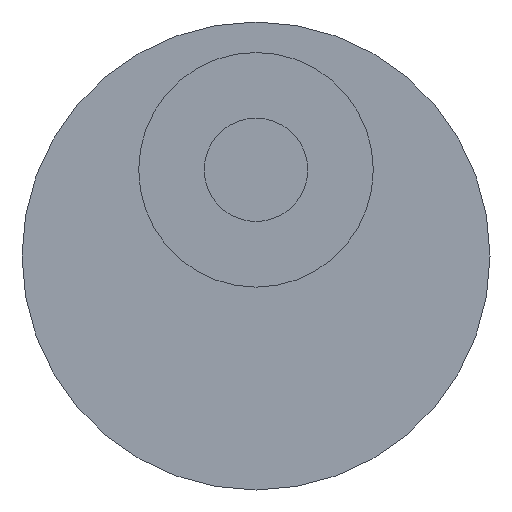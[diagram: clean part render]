
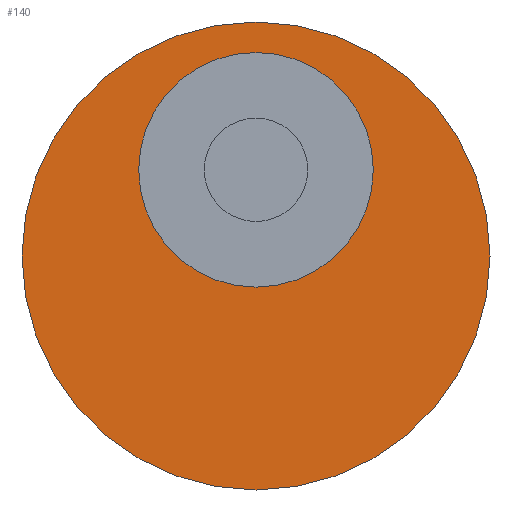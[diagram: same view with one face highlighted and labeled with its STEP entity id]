
A CAD part, front view. The second image highlights one B-rep face of the part: STEP entity #140.
In plain terms, the highlighted planar face has unit normal (0, -1, 0).
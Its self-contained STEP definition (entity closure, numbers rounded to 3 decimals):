
#31 = CYLINDRICAL_SURFACE('',#32,9.5);
#32 = AXIS2_PLACEMENT_3D('',#33,#34,#35);
#33 = CARTESIAN_POINT('',(136.876,317.565,-3.5));
#34 = DIRECTION('',(0.,1.,0.));
#35 = DIRECTION('',(0.,-0.,1.));
#56 = VERTEX_POINT('',#57);
#57 = CARTESIAN_POINT('',(136.876,317.565,6.));
#78 = EDGE_CURVE('',#56,#56,#79,.T.);
#79 = SURFACE_CURVE('',#80,(#85,#92),.PCURVE_S1.);
#80 = CIRCLE('',#81,9.5);
#81 = AXIS2_PLACEMENT_3D('',#82,#83,#84);
#82 = CARTESIAN_POINT('',(136.876,317.565,-3.5));
#83 = DIRECTION('',(0.,1.,0.));
#84 = DIRECTION('',(0.,-0.,1.));
#85 = PCURVE('',#31,#86);
#86 = DEFINITIONAL_REPRESENTATION('',(#87),#91);
#87 = LINE('',#88,#89);
#88 = CARTESIAN_POINT('',(0.,0.));
#89 = VECTOR('',#90,1.);
#90 = DIRECTION('',(1.,0.));
#91 = ( GEOMETRIC_REPRESENTATION_CONTEXT(2) 
PARAMETRIC_REPRESENTATION_CONTEXT() REPRESENTATION_CONTEXT('2D SPACE',''
  ) );
#92 = PCURVE('',#93,#98);
#93 = PLANE('',#94);
#94 = AXIS2_PLACEMENT_3D('',#95,#96,#97);
#95 = CARTESIAN_POINT('',(136.876,317.565,-3.5));
#96 = DIRECTION('',(0.,1.,0.));
#97 = DIRECTION('',(0.,-0.,1.));
#98 = DEFINITIONAL_REPRESENTATION('',(#99),#103);
#99 = CIRCLE('',#100,9.5);
#100 = AXIS2_PLACEMENT_2D('',#101,#102);
#101 = CARTESIAN_POINT('',(0.,0.));
#102 = DIRECTION('',(1.,0.));
#103 = ( GEOMETRIC_REPRESENTATION_CONTEXT(2) 
PARAMETRIC_REPRESENTATION_CONTEXT() REPRESENTATION_CONTEXT('2D SPACE',''
  ) );
#140 = ADVANCED_FACE('',(#141,#144),#93,.F.);
#141 = FACE_BOUND('',#142,.F.);
#142 = EDGE_LOOP('',(#143));
#143 = ORIENTED_EDGE('',*,*,#78,.T.);
#144 = FACE_BOUND('',#145,.F.);
#145 = EDGE_LOOP('',(#146));
#146 = ORIENTED_EDGE('',*,*,#147,.F.);
#147 = EDGE_CURVE('',#148,#148,#150,.T.);
#148 = VERTEX_POINT('',#149);
#149 = CARTESIAN_POINT('',(136.876,317.565,4.763));
#150 = SURFACE_CURVE('',#151,(#156,#163),.PCURVE_S1.);
#151 = CIRCLE('',#152,4.763);
#152 = AXIS2_PLACEMENT_3D('',#153,#154,#155);
#153 = CARTESIAN_POINT('',(136.876,317.565,0.));
#154 = DIRECTION('',(0.,1.,0.));
#155 = DIRECTION('',(0.,-0.,1.));
#156 = PCURVE('',#93,#157);
#157 = DEFINITIONAL_REPRESENTATION('',(#158),#162);
#158 = CIRCLE('',#159,4.763);
#159 = AXIS2_PLACEMENT_2D('',#160,#161);
#160 = CARTESIAN_POINT('',(3.5,0.));
#161 = DIRECTION('',(1.,0.));
#162 = ( GEOMETRIC_REPRESENTATION_CONTEXT(2) 
PARAMETRIC_REPRESENTATION_CONTEXT() REPRESENTATION_CONTEXT('2D SPACE',''
  ) );
#163 = PCURVE('',#164,#169);
#164 = CYLINDRICAL_SURFACE('',#165,4.763);
#165 = AXIS2_PLACEMENT_3D('',#166,#167,#168);
#166 = CARTESIAN_POINT('',(136.876,306.435,0.));
#167 = DIRECTION('',(0.,1.,0.));
#168 = DIRECTION('',(0.,-0.,1.));
#169 = DEFINITIONAL_REPRESENTATION('',(#170),#174);
#170 = LINE('',#171,#172);
#171 = CARTESIAN_POINT('',(0.,11.13));
#172 = VECTOR('',#173,1.);
#173 = DIRECTION('',(1.,0.));
#174 = ( GEOMETRIC_REPRESENTATION_CONTEXT(2) 
PARAMETRIC_REPRESENTATION_CONTEXT() REPRESENTATION_CONTEXT('2D SPACE',''
  ) );
